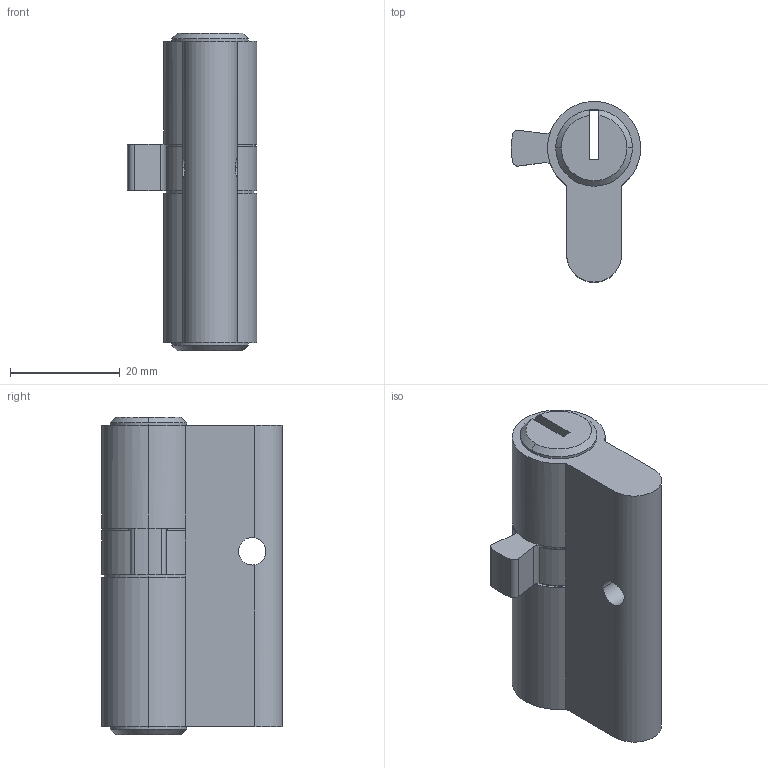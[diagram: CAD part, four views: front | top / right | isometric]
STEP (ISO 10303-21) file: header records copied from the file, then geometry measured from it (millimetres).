
FILE_DESCRIPTION (( 'STEP AP214' ), '1' );
FILE_NAME ('TPL-H-APC-014-R 09Oct2024.STEP', '2024-10-09T04:48:45', ( '' ), ( '' ), 'SwSTEP 2.0', 'SolidWorks 2023', '' );
FILE_SCHEMA (( 'AUTOMOTIVE_DESIGN' ));
Length unit declared in the file: millimetre
Products named in the file (1): TPL-H-APC-014-R 09Oct2024
Bounding box: 23.6 x 33 x 58 mm (x, y, z)
Volume: 20579.9 mm3; surface area: 7053.2 mm2
Topology: 1 solids, 1 shells, 52 faces, 144 edges, 90 vertices
Faces by surface type: cylinder 30, plane 16, cone 6
Entity records: 1775 total; most frequent: CARTESIAN_POINT 363, DIRECTION 314, ORIENTED_EDGE 288, EDGE_CURVE 144, AXIS2_PLACEMENT_3D 125, VERTEX_POINT 90, CIRCLE 72, LINE 64
